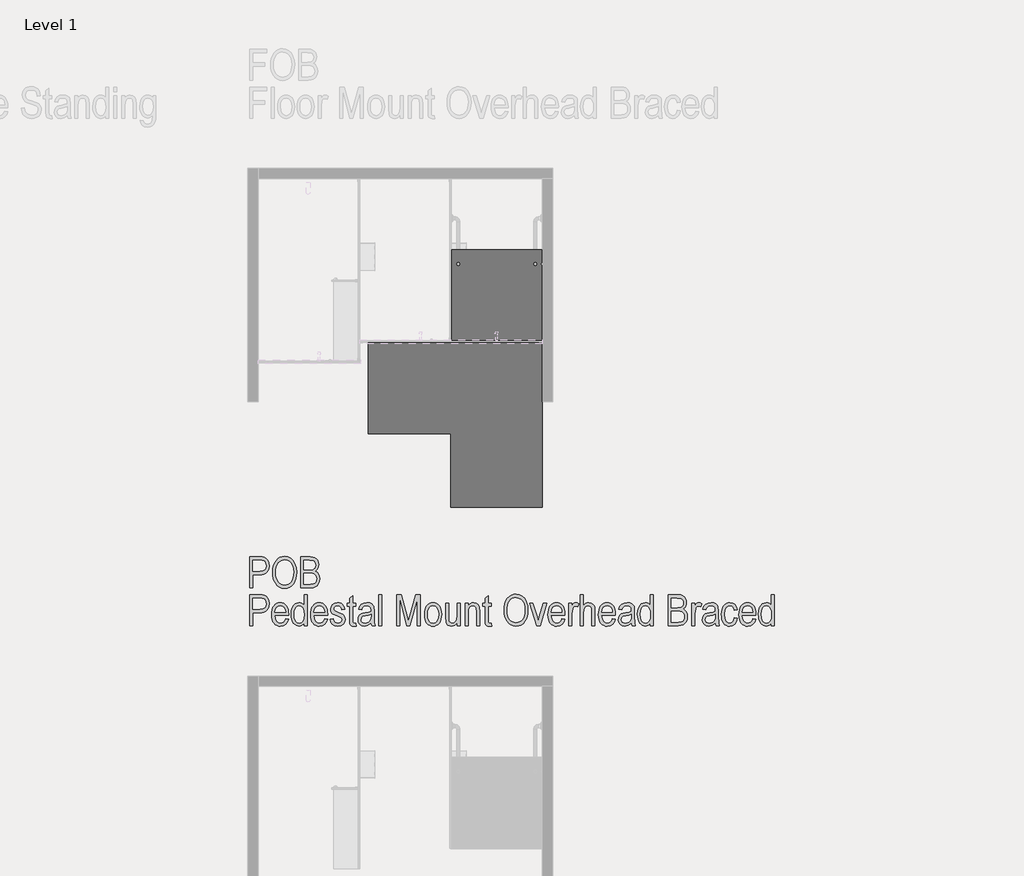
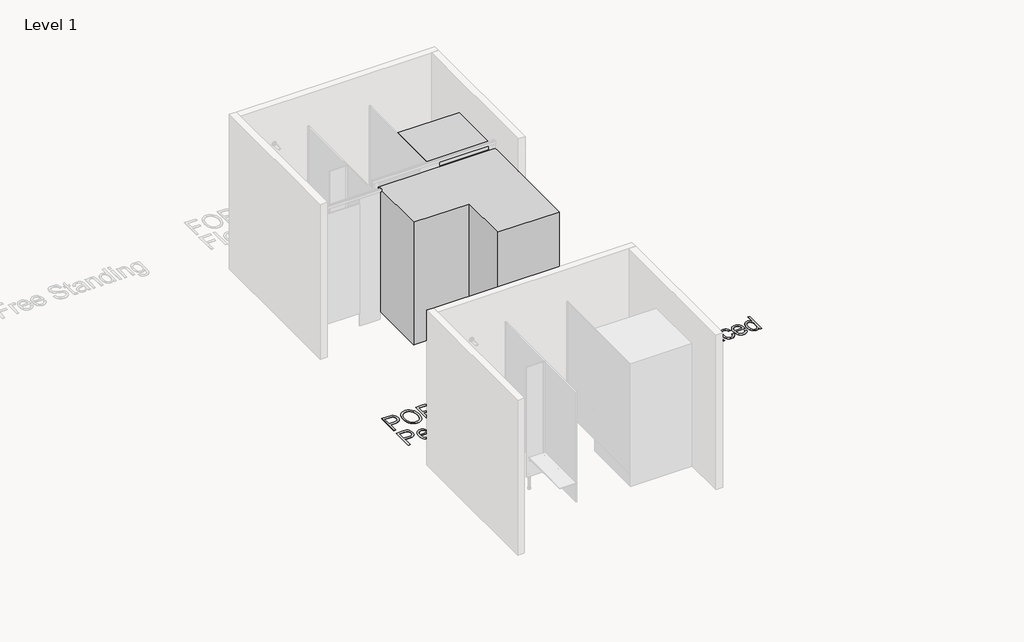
# One storey, part 20 of 21: 3 proxies.
"""IFC4 building model written with IfcOpenShell, lengths in millimetres."""

import ifcopenshell
import ifcopenshell.guid

model = None  # the IFC model being written
_history = None  # IfcOwnerHistory: only IFC2X3 demands one
_inside = {}  # id of a spatial element -> (the spatial element, [elements in it])
_under = {}  # id of a project, library or spatial element -> (it, [spatial elements below it])
_declared = {}  # id of a project -> (the project, [libraries it declares])
_typed = {}  # id of a type object -> (the type object, [elements of that type])
_made_of = {}  # id of a material, layer set ... -> (it, [elements and type objects made of it])


def new_model(schema):
    """Start an empty IFC model of exactly this schema.

    Asked for "IFC4X3", IfcOpenShell would pick the latest addendum, in which some entities
    have other attributes; the version numbers below select the first issue.
    IFC2X3 requires an IfcOwnerHistory on every rooted entity: one is made here for all.
    """
    global model, _history
    if schema == "IFC4X3":
        model = ifcopenshell.file(schema_version=(4, 3, 0, 0))
    else:
        model = ifcopenshell.file(schema=schema)
    _inside.clear()
    _under.clear()
    _declared.clear()
    _typed.clear()
    _made_of.clear()
    _history = None
    if model.schema == "IFC2X3":
        org = make("IfcOrganization", Name="unknown")
        user = make(
            "IfcPersonAndOrganization",
            ThePerson=make("IfcPerson", FamilyName="unknown"),
            TheOrganization=org,
        )
        app = make(
            "IfcApplication",
            ApplicationDeveloper=org,
            Version="unknown",
            ApplicationFullName="unknown",
            ApplicationIdentifier="unknown",
        )
        _history = make(
            "IfcOwnerHistory",
            OwningUser=user,
            OwningApplication=app,
            ChangeAction="ADDED",
            CreationDate=0,
        )
    return model


def make(cls, **values):
    """One entity of the class cls with the attributes given. An attribute that is None is left unset."""
    return model.create_entity(
        cls, **{name: value for name, value in values.items() if value is not None}
    )


def rooted(cls, **values):
    """An entity with a GlobalId (a new one), such as an element, a storey or a relation."""
    return make(cls, GlobalId=ifcopenshell.guid.new(), OwnerHistory=_history, **values)


def si_unit(unit_type, name, prefix=None):
    """IfcSIUnit, for example si_unit("LENGTHUNIT", "METRE", prefix="MILLI")."""
    return make("IfcSIUnit", UnitType=unit_type, Prefix=prefix, Name=name)


def assignment(units):
    """IfcUnitAssignment: the units of a project."""
    return None if units is None else make("IfcUnitAssignment", Units=units)


def point(xyz):
    """IfcCartesianPoint."""
    return None if xyz is None else make("IfcCartesianPoint", Coordinates=xyz)


def direction(xyz):
    """IfcDirection."""
    return None if xyz is None else make("IfcDirection", DirectionRatios=xyz)


def frame(location, z_axis=None, x_axis=None):
    """IfcAxis2Placement3D, a coordinate frame: its origin and axes. An axis left out is left unset."""
    return make(
        "IfcAxis2Placement3D",
        Location=point(location),
        Axis=direction(z_axis),
        RefDirection=direction(x_axis),
    )


def origin():
    """The frame at (0, 0, 0) with its axes left unset."""
    return frame((0.0, 0.0, 0.0))


def origin_with_axes():
    """The frame at (0, 0, 0) with the z axis (0, 0, 1) and the x axis (1, 0, 0) written out."""
    return frame((0.0, 0.0, 0.0), z_axis=(0.0, 0.0, 1.0), x_axis=(1.0, 0.0, 0.0))


def place(relative_to, where):
    """IfcLocalPlacement: puts the frame where relative to a parent placement (None: the world)."""
    return make(
        "IfcLocalPlacement", PlacementRelTo=relative_to, RelativePlacement=where
    )


def context(
    kind, dimensions, precision=None, world=None, true_north=None, identifier=None
):
    """IfcGeometricRepresentationContext, for example the 3D "Model" context."""
    return make(
        "IfcGeometricRepresentationContext",
        ContextIdentifier=identifier,
        ContextType=kind,
        CoordinateSpaceDimension=dimensions,
        Precision=precision,
        WorldCoordinateSystem=world,
        TrueNorth=true_north,
    )


def project(units=None, contexts=None):
    """IfcProject with its units and contexts."""
    return rooted(
        "IfcProject",
        Name="project",
        RepresentationContexts=contexts,
        UnitsInContext=assignment(units),
    )


def spatial(cls, under=None, at=None, **own):
    """A site, building, storey or space (cls), placed at a placement, below another one or the project."""
    s = rooted(cls, ObjectPlacement=at, **own)
    if under is not None:
        _under.setdefault(under.id(), (under, []))[1].append(s)
    return s


def polyline(points):
    """IfcPolyline through the points."""
    return make("IfcPolyline", Points=[point(p) for p in points])


def outline(outer, holes=None, kind="AREA"):
    """IfcArbitraryClosedProfileDef: a profile drawn as a closed curve; with holes, ...WithVoids."""
    if holes is None:
        return make("IfcArbitraryClosedProfileDef", ProfileType=kind, OuterCurve=outer)
    return make(
        "IfcArbitraryProfileDefWithVoids",
        ProfileType=kind,
        OuterCurve=outer,
        InnerCurves=holes,
    )


def extrude(swept, where, along, depth):
    """IfcExtrudedAreaSolid: the profile swept, set in the frame where, extruded along a direction by depth."""
    return make(
        "IfcExtrudedAreaSolid",
        SweptArea=swept,
        Position=where,
        ExtrudedDirection=direction(along),
        Depth=depth,
    )


def shape(context_of_items, identifier, shape_type, items):
    """IfcShapeRepresentation: the items that make up one representation, for example the "Body"."""
    return make(
        "IfcShapeRepresentation",
        ContextOfItems=context_of_items,
        RepresentationIdentifier=identifier,
        RepresentationType=shape_type,
        Items=items,
    )


def source(mapping_origin, context_of_items, identifier, shape_type, items):
    """IfcRepresentationMap: a shape defined once, which mapped items show again and again."""
    return make(
        "IfcRepresentationMap",
        MappingOrigin=mapping_origin,
        MappedRepresentation=shape(context_of_items, identifier, shape_type, items),
    )


def transform(
    local_origin,
    x_axis=None,
    y_axis=None,
    z_axis=None,
    scale=None,
    scale2=None,
    scale3=None,
    uniform=True,
):
    """IfcCartesianTransformationOperator3D, or its non-uniform kind. x_axis, y_axis, z_axis: its Axis1, 2, 3."""
    if uniform:
        return make(
            "IfcCartesianTransformationOperator3D",
            Axis1=direction(x_axis),
            Axis2=direction(y_axis),
            LocalOrigin=point(local_origin),
            Scale=scale,
            Axis3=direction(z_axis),
        )
    return make(
        "IfcCartesianTransformationOperator3DnonUniform",
        Axis1=direction(x_axis),
        Axis2=direction(y_axis),
        LocalOrigin=point(local_origin),
        Scale=scale,
        Axis3=direction(z_axis),
        Scale2=scale2,
        Scale3=scale3,
    )


def mapped(mapping_source, mapping_target):
    """IfcMappedItem: shows the shape of a source again, moved by a transform."""
    return make(
        "IfcMappedItem", MappingSource=mapping_source, MappingTarget=mapping_target
    )


def made_of(thing, what):
    """Note that an element or type object is made of a material, layer set ...; save() writes the relation."""
    if what is not None:
        _made_of.setdefault(what.id(), (what, []))[1].append(thing)
    return thing


def element(
    cls,
    number,
    at=None,
    inside=None,
    cuts=None,
    type_object=None,
    material=None,
    context=None,
    identifier="Body",
    shape_type=None,
    held_by="IfcProductDefinitionShape",
    body=None,
    shapes=None,
    **own,
):
    """One element of the class cls, such as IfcWall. Its Tag is "e" and its number.

    at: its placement. inside: the storey or other place that contains it. cuts: it is an
    opening in that element (IfcRelVoidsElement). A single representation is given by context,
    identifier, shape_type and body (its items); several are given by shapes. held_by: the class
    of the entity that holds the representations. save() writes the other relations.
    """
    e = rooted(cls, Tag="e%d" % number, ObjectPlacement=at, **own)
    if body is not None:
        shapes = [shape(context, identifier, shape_type, body)]
    if shapes is not None:
        e.Representation = make(held_by, Representations=shapes)
    if inside is not None:
        _inside.setdefault(inside.id(), (inside, []))[1].append(e)
    if cuts is not None:
        rooted(
            "IfcRelVoidsElement", RelatingBuildingElement=cuts, RelatedOpeningElement=e
        )
    if type_object is not None:
        _typed.setdefault(type_object.id(), (type_object, []))[1].append(e)
    return made_of(e, material)


def aggregate(whole, parts):
    """IfcRelAggregates: a whole, such as a stair, and the parts it consists of."""
    return rooted("IfcRelAggregates", RelatingObject=whole, RelatedObjects=parts)


def save(model, path):
    """Write the relations noted so far, then the file.

    IfcRelAggregates (storeys below a building ...), IfcRelContainedInSpatialStructure (elements
    in a storey), IfcRelDefinesByType, IfcRelAssociatesMaterial and IfcRelDeclares: one each for
    every whole, place, type object, material and project.
    """
    for whole, parts in _under.values():
        aggregate(whole, parts)
    for where, things in _inside.values():
        rooted(
            "IfcRelContainedInSpatialStructure",
            RelatedElements=things,
            RelatingStructure=where,
        )
    for kind, things in _typed.values():
        rooted("IfcRelDefinesByType", RelatedObjects=things, RelatingType=kind)
    for what, things in _made_of.values():
        rooted("IfcRelAssociatesMaterial", RelatedObjects=things, RelatingMaterial=what)
    for by, libraries in _declared.values():
        rooted("IfcRelDeclares", RelatingContext=by, RelatedDefinitions=libraries)
    model.write(path)


def standard_f88c7766(model_context):
    return source(origin(), model_context, "Body", "SweptSolid", [
        extrude(outline(polyline([(450.0, 812.5), (450.0, -812.5), (-450.0, -812.5), (-450.0, -87.5), (-1262.5, -87.5), (-1262.5, 812.5), (450.0, 812.5)])), origin_with_axes(), (0.0, 0.0, 1.0), 1900.0),
    ])


def standard_ef1a4fdd(model_context):
    return source(origin(), model_context, "Body", "SweptSolid", [
        extrude(outline(polyline([(450.0, -450.0), (-450.0, -450.0), (-450.0, 450.0), (450.0, 450.0), (450.0, -450.0)])), origin_with_axes(), (0.0, 0.0, 1.0), 1900.0),
    ])


model = new_model("IFC4")

# Units and contexts
model_context = context("Model", 3, world=origin())
ifc_project = project(units=[si_unit("LENGTHUNIT", "METRE", prefix="MILLI")], contexts=[model_context])

# Site, building, storey
site = spatial("IfcSite", under=ifc_project)
building = spatial("IfcBuilding", under=site)
storey = spatial("IfcBuildingStorey", under=building, Name="Level 1", Elevation=0.0)

# Proxies
placement = place(None, origin())
element("IfcBuildingElementProxy", 1, Name="Arial Narrow-300mm", ObjectType="Arial Narrow-300mm", at=placement, inside=storey, context=model_context, shape_type="SweptSolid", body=[
    extrude(outline(polyline([(-1218.8829157, 6023.6753804), (-1218.8829157, 6328.8527498), (-1124.0533551, 6328.8527498), (-1094.9430642, 6327.4299218), (-1074.6773795, 6323.161438), (-1055.1038814, 6312.0960665), (-1039.9142316, 6294.4356951), (-1030.1659373, 6271.0647846), (-1026.9165059, 6242.8677954), (-1032.3290204, 6206.278044), (-1039.0946635, 6190.7663352), (-1048.5665638, 6177.1100709), (-1061.3599982, 6165.9725967), (-1078.0902439, 6158.0172579), (-1098.7573006, 6153.2440547), (-1123.3611685, 6151.6529869), (-1189.3496219, 6151.6529869), (-1189.3496219, 6023.6753804), (-1218.8829157, 6023.6753804)]), holes=[polyline([(-1189.3496219, 6186.1084964), (-1119.7464164, 6186.1084964), (-1091.3090847, 6189.5405881), (-1071.6779044, 6199.8368634), (-1060.2568259, 6217.0550044), (-1056.4497997, 6241.2526934), (-1058.3244717, 6257.9516945), (-1063.9484876, 6272.0549959), (-1072.2258854, 6282.8511837), (-1082.060703, 6289.6288439), (-1096.9619417, 6293.2051412), (-1120.438603, 6294.3972403), (-1189.3496219, 6294.3972403), (-1189.3496219, 6186.1084964)])]), origin_with_axes(), (0.0, 0.0, 1.0), 5.0),
    extrude(outline(polyline([(-992.4609965, 6172.1878553), (-990.3411751, 6208.8881642), (-983.981711, 6241.0796468), (-973.382604, 6268.7623029), (-958.5438544, 6291.9361325), (-940.5470035, 6310.2406219), (-920.4735928, 6323.3152572), (-898.3236225, 6331.1600384), (-874.0970924, 6333.7749654), (-842.9102418, 6329.102706), (-814.569047, 6315.0859279), (-790.4482677, 6292.1668614), (-771.9226631, 6260.7877367), (-760.1266503, 6221.7753323), (-756.194646, 6175.9564266), (-758.0933522, 6143.6832276), (-763.7894709, 6114.5440956), (-773.283002, 6088.5390306), (-786.5739456, 6065.6680325), (-804.6332856, 6045.1427779), (-825.2787115, 6030.4818817), (-848.5102234, 6021.685344), (-874.3278212, 6018.7531648), (-900.3280794, 6021.7622536), (-923.6461146, 6030.7895202), (-944.2819268, 6045.8349645), (-962.2355161, 6066.8985865), (-975.4591638, 6089.8320736), (-984.9046264, 6115.0247807), (-990.571904, 6142.476708), (-992.4609965, 6172.1878553)]), holes=[polyline([(-962.9277027, 6171.7263976), (-961.3174075, 6145.1204761), (-956.4865221, 6121.6774628), (-948.4350463, 6101.3973576), (-937.1629802, 6084.2801604), (-923.5884324, 6070.6863852), (-908.6295114, 6060.9765458), (-892.2862173, 6055.1506421), (-874.5585501, 6053.2086742), (-856.4415279, 6055.1698695), (-839.8530844, 6061.0534554), (-824.7932196, 6070.8594318), (-811.2619334, 6084.5877989), (-800.0908112, 6102.1231921), (-792.1114382, 6123.350247), (-787.3238144, 6148.2689637), (-785.7279398, 6176.879342), (-789.015826, 6214.1035978), (-798.8794847, 6247.1747341), (-811.5791856, 6268.497926), (-829.3741488, 6285.0911764), (-850.6684996, 6295.7623861), (-873.8663635, 6299.319456), (-892.4280195, 6297.3702778), (-909.2736295, 6291.5227433), (-924.4031937, 6281.7768525), (-937.816712, 6268.1326053), (-948.8027704, 6250.4121484), (-956.649955, 6228.4376281), (-961.3582658, 6202.2090445), (-962.9277027, 6171.7263976)])]), origin_with_axes(), (0.0, 0.0, 1.0), 5.0),
    extrude(outline(polyline([(-716.8169209, 6023.6753804), (-716.8169209, 6328.8527498), (-622.8333661, 6328.8527498), (-597.2032355, 6326.680053), (-577.5336004, 6320.1619628), (-562.363178, 6309.0389091), (-550.2306855, 6293.051322), (-542.2705399, 6273.6797116), (-539.6171581, 6252.4045882), (-541.7129452, 6232.7445668), (-548.0003066, 6215.1418776), (-558.0946941, 6200.2117978), (-571.6115597, 6188.5696042), (-554.220372, 6177.7349616), (-540.9630764, 6161.2282345), (-532.5703142, 6139.6262452), (-529.7727268, 6113.5058157), (-532.5799279, 6087.13543), (-541.0015312, 6064.168295), (-554.1050076, 6045.8157371), (-570.9578279, 6033.2890828), (-593.1943216, 6026.078806), (-622.448818, 6023.6753804), (-716.8169209, 6023.6753804)]), holes=[polyline([(-687.2836271, 6200.8751433), (-629.7552319, 6200.8751433), (-597.6839206, 6203.7977088), (-585.5610419, 6209.7582043), (-576.5722301, 6218.7181749), (-571.0058964, 6231.0429414), (-569.1504519, 6247.0978245), (-570.8328498, 6262.3836113), (-575.8800436, 6274.862197), (-583.7248247, 6284.2259432), (-593.7999849, 6290.1672113), (-633.9852609, 6294.3972403), (-687.2836271, 6294.3972403), (-687.2836271, 6200.8751433)]), polyline([(-687.2836271, 6058.1308899), (-621.7566315, 6058.1308899), (-589.7622298, 6061.9763708), (-576.6299123, 6069.3789217), (-567.0738921, 6080.3577698), (-561.2479885, 6094.7783234), (-559.3060206, 6112.5059907), (-561.1710789, 6128.9742629), (-566.7662537, 6142.6930163), (-575.5051092, 6153.3738397), (-586.8012095, 6160.728322), (-602.9810707, 6164.9968059), (-626.3712086, 6166.4196338), (-687.2836271, 6166.4196338), (-687.2836271, 6058.1308899)])]), origin_with_axes(), (0.0, 0.0, 1.0), 5.0),
    extrude(outline(polyline([(-1218.8829157, 5650.573168), (-1218.8829157, 5955.7505374), (-1124.0533551, 5955.7505374), (-1094.9430642, 5954.3277094), (-1074.6773795, 5950.0592255), (-1055.1038814, 5938.9938541), (-1039.9142316, 5921.3334827), (-1030.1659373, 5897.9625722), (-1026.9165059, 5869.765583), (-1032.3290204, 5833.1758316), (-1039.0946635, 5817.6641228), (-1048.5665638, 5804.0078585), (-1061.3599982, 5792.8703843), (-1078.0902439, 5784.9150455), (-1098.7573006, 5780.1418423), (-1123.3611685, 5778.5507745), (-1189.3496219, 5778.5507745), (-1189.3496219, 5650.573168), (-1218.8829157, 5650.573168)]), holes=[polyline([(-1189.3496219, 5813.006284), (-1119.7464164, 5813.006284), (-1091.3090847, 5816.4383757), (-1071.6779044, 5826.734651), (-1060.2568259, 5843.952792), (-1056.4497997, 5868.150481), (-1058.3244717, 5884.8494821), (-1063.9484876, 5898.9527835), (-1072.2258854, 5909.7489713), (-1082.060703, 5916.5266315), (-1096.9619417, 5920.1029288), (-1120.438603, 5921.2950279), (-1189.3496219, 5921.2950279), (-1189.3496219, 5813.006284)])]), origin_with_axes(), (0.0, 0.0, 1.0), 5.0),
    extrude(outline(polyline([(-864.48339, 5719.4841869), (-834.9500962, 5714.5619713), (-846.1596732, 5684.6056745), (-863.7912034, 5663.0325263), (-887.1332729, 5649.9963459), (-915.4744676, 5645.6509524), (-933.9664242, 5647.4799593), (-950.6029362, 5652.9669799), (-965.3840036, 5662.1120143), (-978.3096265, 5674.9150625), (-988.8077896, 5691.1742367), (-996.3064774, 5710.6876492), (-1000.8056902, 5733.4552999), (-1002.3054277, 5759.4771889), (-1000.7984799, 5786.4268002), (-996.2776363, 5809.9779677), (-988.7428971, 5830.1306914), (-978.1942621, 5846.8849713), (-965.3383385, 5860.058147), (-950.8817335, 5869.4675582), (-934.8244471, 5875.113205), (-917.1664792, 5876.9950872), (-900.2487664, 5875.1780975), (-884.7971432, 5869.7271282), (-870.8116096, 5860.6421794), (-858.2921656, 5847.9232511), (-847.9790664, 5831.7626174), (-840.6125669, 5812.3525522), (-836.1926672, 5789.6930556), (-834.7193673, 5763.7841276), (-834.9500962, 5753.9396963), (-972.7721339, 5753.9396963), (-967.2250276, 5719.6764609), (-954.583009, 5695.026928), (-936.6149992, 5680.1449166), (-915.0899195, 5675.1842462), (-898.2851676, 5677.9529925), (-884.2491621, 5686.2592314), (-872.9819029, 5700.1029628), (-864.48339, 5719.4841869)]), holes=[polyline([(-970.7724838, 5783.4729902), (-864.48339, 5783.4729902), (-868.7903286, 5808.7378001), (-877.404206, 5826.6961962), (-895.0549636, 5842.2703941), (-916.9357503, 5847.4617934), (-937.0283884, 5843.1356273), (-953.9292772, 5830.1571291), (-965.792586, 5809.8337622), (-970.7724838, 5783.4729902)])]), origin_with_axes(), (0.0, 0.0, 1.0), 5.0),
    extrude(outline(polyline([(-682.3614115, 5650.573168), (-682.3614115, 5677.3377155), (-691.8501358, 5663.7150992), (-703.7038308, 5653.7649172), (-717.2687649, 5647.6794436), (-731.8912063, 5645.6509524), (-747.277937, 5647.5472552), (-761.5975468, 5653.2361636), (-774.8500355, 5662.7176776), (-787.0354033, 5675.9917972), (-797.2307347, 5692.7028154), (-804.5131143, 5712.4950252), (-808.8825421, 5735.3684267), (-810.339018, 5761.3230198), (-807.7048635, 5796.1534636), (-799.8024001, 5825.2733682), (-787.5064748, 5848.15398), (-771.6919343, 5864.2665452), (-753.1471023, 5873.8129517), (-732.6603025, 5876.9950872), (-717.8359734, 5875.0723467), (-704.1268337, 5869.3041253), (-692.1097057, 5860.0941984), (-682.3614115, 5847.8463415), (-682.3614115, 5955.7505374), (-652.8281177, 5955.7505374), (-652.8281177, 5650.573168), (-682.3614115, 5650.573168)]), holes=[polyline([(-780.8057242, 5761.0922909), (-777.0659939, 5723.098939), (-765.8468032, 5696.3343915), (-749.6477147, 5680.4717825), (-730.9682909, 5675.1842462), (-712.5868919, 5680.2602811), (-696.8204199, 5695.4883857), (-685.9761636, 5720.9839245), (-682.3614115, 5756.8622619), (-685.9761636, 5797.7012697), (-696.8204199, 5825.7732808), (-713.163714, 5842.0396652), (-733.2755794, 5847.4617934), (-751.3781811, 5842.2511667), (-766.7697187, 5826.6192866), (-777.2967228, 5799.8162843), (-780.8057242, 5761.0922909)])]), origin_with_axes(), (0.0, 0.0, 1.0), 5.0),
    extrude(outline(polyline([(-480.5505704, 5719.4841869), (-451.0172766, 5714.5619713), (-462.2268536, 5684.6056745), (-479.8583839, 5663.0325263), (-503.2004533, 5649.9963459), (-531.541648, 5645.6509524), (-550.0336046, 5647.4799593), (-566.6701166, 5652.9669799), (-581.4511841, 5662.1120143), (-594.376807, 5674.9150625), (-604.87497, 5691.1742367), (-612.3736579, 5710.6876492), (-616.8728706, 5733.4552999), (-618.3726082, 5759.4771889), (-616.8656604, 5786.4268002), (-612.3448168, 5809.9779677), (-604.8100775, 5830.1306914), (-594.2614426, 5846.8849713), (-581.405519, 5860.058147), (-566.948914, 5869.4675582), (-550.8916276, 5875.113205), (-533.2336597, 5876.9950872), (-516.3159468, 5875.1780975), (-500.8643236, 5869.7271282), (-486.87879, 5860.6421794), (-474.3593461, 5847.9232511), (-464.0462468, 5831.7626174), (-456.6797473, 5812.3525522), (-452.2598477, 5789.6930556), (-450.7865478, 5763.7841276), (-451.0172766, 5753.9396963), (-588.8393144, 5753.9396963), (-583.2922081, 5719.6764609), (-570.6501894, 5695.026928), (-552.6821796, 5680.1449166), (-531.1570999, 5675.1842462), (-514.3523481, 5677.9529925), (-500.3163426, 5686.2592314), (-489.0490834, 5700.1029628), (-480.5505704, 5719.4841869)]), holes=[polyline([(-586.8396643, 5783.4729902), (-480.5505704, 5783.4729902), (-484.8575091, 5808.7378001), (-493.4713865, 5826.6961962), (-511.1221441, 5842.2703941), (-533.0029308, 5847.4617934), (-553.0955688, 5843.1356273), (-569.9964577, 5830.1571291), (-581.8597665, 5809.8337622), (-586.8396643, 5783.4729902)])]), origin_with_axes(), (0.0, 0.0, 1.0), 5.0),
    extrude(outline(polyline([(-426.4061985, 5714.5619713), (-396.8729046, 5719.4841869), (-391.8353246, 5699.9106888), (-382.1062577, 5686.1054121), (-368.0702522, 5677.9145377), (-350.1118561, 5675.1842462), (-332.3841889, 5677.6068992), (-319.1941892, 5684.8748582), (-311.0033147, 5695.8537064), (-308.2730232, 5709.4090268), (-310.44572, 5720.8108778), (-316.9638102, 5729.3286182), (-347.5738387, 5742.0187054), (-395.4885315, 5761.3230198), (-406.4769934, 5770.4848782), (-414.6774815, 5782.2808911), (-419.7823575, 5796.3072829), (-421.4839828, 5812.1602781), (-416.9751564, 5838.2903213), (-403.4486771, 5858.9982363), (-381.9428248, 5872.4958745), (-353.4958794, 5876.9950872), (-334.6337952, 5875.1204152), (-318.1943641, 5869.4963993), (-304.7447944, 5860.6998616), (-294.8522946, 5849.3076243), (-287.9977248, 5833.8872456), (-283.661945, 5813.006284), (-313.1952388, 5808.0840683), (-317.2089596, 5825.311823), (-325.0970024, 5837.6173621), (-336.8593673, 5845.0006856), (-352.4960543, 5847.4617934), (-369.8776283, 5845.3660063), (-382.1831674, 5839.0786449), (-389.5088086, 5829.5226247), (-391.950689, 5817.6208611), (-389.5857182, 5806.1421004), (-382.4908058, 5797.3936312), (-348.727483, 5783.4729902), (-300.4666969, 5764.2071305), (-291.3336796, 5755.8047546), (-284.469496, 5744.8259065), (-280.1721711, 5731.4147916), (-278.7397294, 5715.7156156), (-283.6715587, 5687.3936482), (-298.4670468, 5665.0321764), (-321.7802751, 5650.4962584), (-352.2653254, 5645.6509524), (-380.8660901, 5649.9578911), (-402.7564905, 5662.8787071), (-417.9365266, 5684.4134005), (-426.4061985, 5714.5619713)])), origin_with_axes(), (0.0, 0.0, 1.0), 5.0),
    extrude(outline(polyline([(-175.3732011, 5675.1842462), (-170.4509854, 5645.6509524), (-192.754775, 5645.6509524), (-206.7907805, 5647.2564407), (-217.8273109, 5652.0729056), (-225.8643661, 5659.6773442), (-230.9019462, 5669.6467536), (-234.4397887, 5714.0236039), (-234.4397887, 5842.5395778), (-259.0508669, 5842.5395778), (-259.0508669, 5872.0728716), (-234.4397887, 5872.0728716), (-234.4397887, 5921.2950279), (-204.9064949, 5945.9061061), (-204.9064949, 5872.0728716), (-175.3732011, 5872.0728716), (-175.3732011, 5842.5395778), (-204.9064949, 5842.5395778), (-204.9064949, 5707.2555574), (-202.2915678, 5683.0290273), (-196.9463493, 5677.1454415), (-188.2940171, 5675.1842462), (-175.3732011, 5675.1842462)])), origin_with_axes(), (0.0, 0.0, 1.0), 5.0),
    extrude(outline(polyline([(-22.7845164, 5678.1068117), (-38.4067828, 5663.9554418), (-54.6635536, 5653.803372), (-71.5548287, 5647.6890573), (-89.0806082, 5645.6509524), (-114.383873, 5649.9386636), (-133.9958259, 5662.8017975), (-146.5705486, 5682.9136629), (-150.7621229, 5708.9475691), (-148.7528591, 5727.0790118), (-142.7250677, 5743.0185304), (-133.217116, 5756.2373712), (-120.7673714, 5766.2067806), (-103.2512056, 5773.4651259), (-78.5439904, 5778.5507745), (-45.6074459, 5785.3572758), (-22.7845164, 5793.3174214), (-22.7845164, 5802.7773046), (-24.8803035, 5821.889345), (-31.1676649, 5834.3102485), (-46.088131, 5844.1739072), (-67.315186, 5847.4617934), (-86.5425908, 5845.3948474), (-100.232503, 5839.1940093), (-109.7116136, 5827.282632), (-116.3066134, 5808.0840683), (-145.8399073, 5813.006284), (-136.0531582, 5841.9146871), (-119.6137271, 5861.7285278), (-95.5986984, 5873.1784474), (-63.0851569, 5876.9950872), (-37.4934811, 5874.3128642), (-18.0930296, 5866.2661953), (-4.7972792, 5854.258681), (2.4802936, 5839.6939219), (6.7487774, 5793.394331), (6.7487774, 5743.3261689), (8.7484275, 5677.1454415), (16.5932087, 5650.573168), (-12.9400851, 5650.573168), (-19.1697643, 5663.2248004), (-22.7845164, 5678.1068117)]), holes=[polyline([(-22.7845164, 5763.7841276), (-44.8768045, 5755.7470724), (-75.6214248, 5749.0174807), (-104.1164388, 5741.288064), (-116.7296164, 5728.9825249), (-121.2288291, 5710.6395807), (-118.6523568, 5696.1132763), (-110.9229401, 5684.8364034), (-98.6366284, 5677.5972855), (-82.3894713, 5675.1842462), (-65.8731306, 5677.3665566), (-50.933437, 5683.913488), (-38.5702157, 5694.1040125), (-29.7832917, 5707.2171026), (-24.5342102, 5725.1274302), (-22.7845164, 5749.7096673), (-22.7845164, 5763.7841276)])]), origin_with_axes(), (0.0, 0.0, 1.0), 5.0),
    extrude(outline(polyline([(51.0487181, 5650.573168), (51.0487181, 5955.7505374), (80.582012, 5955.7505374), (80.582012, 5650.573168), (51.0487181, 5650.573168)])), origin_with_axes(), (0.0, 0.0, 1.0), 5.0),
    extrude(outline(polyline([(228.248481, 5650.573168), (228.248481, 5955.7505374), (275.0864392, 5955.7505374), (332.4610152, 5739.6345072), (343.9205484, 5694.4885606), (357.3028222, 5743.4030785), (417.3692349, 5955.7505374), (459.5926159, 5955.7505374), (459.5926159, 5650.573168), (430.059322, 5650.573168), (430.059322, 5910.8353197), (356.8413645, 5650.573168), (330.2306362, 5650.573168), (257.7817748, 5925.4481474), (257.7817748, 5650.573168), (228.248481, 5650.573168)])), origin_with_axes(), (0.0, 0.0, 1.0), 5.0),
    extrude(outline(polyline([(503.8925566, 5761.3230198), (505.3730667, 5788.2149489), (509.8145973, 5811.5930697), (517.2171481, 5831.4573823), (527.5807193, 5847.8078867), (540.2131243, 5860.5772869), (554.4221764, 5869.6982871), (570.2078758, 5875.1708872), (587.5702224, 5876.9950872), (604.6826127, 5875.1708872), (620.3337202, 5869.6982871), (634.5235449, 5860.5772869), (647.2520869, 5847.8078867), (657.75025, 5831.6015879), (665.2489379, 5812.1698919), (669.7481506, 5789.5127987), (671.2478882, 5763.6303084), (669.7745883, 5735.7289405), (665.3546886, 5711.629792), (657.9881891, 5691.3328628), (647.6750898, 5674.8381529), (635.0787363, 5662.0687527), (620.8624738, 5652.9477525), (605.0263025, 5647.4751524), (587.5702224, 5645.6509524), (570.3640985, 5647.4799593), (554.662519, 5652.9669799), (540.465484, 5662.1120143), (527.7729934, 5674.9150625), (517.3253023, 5691.2896011), (509.8626658, 5711.1491069), (505.3850839, 5734.4935798), (503.8925566, 5761.3230198)]), holes=[polyline([(533.4258504, 5761.3999294), (537.3770821, 5723.3681227), (549.2307771, 5696.4882107), (566.9296033, 5680.5102373), (588.4162282, 5675.1842462), (608.7780499, 5680.5583058), (626.025032, 5696.6804848), (637.7922038, 5723.6084652), (641.7145943, 5761.3999294), (637.7633627, 5799.3163717), (625.9096676, 5826.1578289), (608.2108414, 5842.1358023), (586.7242166, 5847.4617934), (566.2181893, 5842.1069612), (549.0000483, 5826.0424644), (537.3193999, 5799.1721662), (533.4258504, 5761.3999294)])]), origin_with_axes(), (0.0, 0.0, 1.0), 5.0),
    extrude(outline(polyline([(823.8365728, 5650.573168), (823.8365728, 5680.4910099), (812.8769521, 5665.272519), (800.1484101, 5654.3801942), (785.6509469, 5647.8332628), (769.3845624, 5645.6509524), (750.5609331, 5648.5446768), (734.6983241, 5657.2258501), (722.7004235, 5670.3389402), (715.4709193, 5686.528415), (710.6256132, 5734.8661108), (710.6256132, 5872.0728716), (740.158907, 5872.0728716), (740.158907, 5747.4792883), (743.5044755, 5701.0643331), (748.2824856, 5690.4988741), (755.925379, 5682.2599312), (765.6352184, 5676.9531674), (776.6140666, 5675.1842462), (796.2260195, 5679.7795959), (811.9924915, 5693.5656452), (820.8755525, 5716.023254), (823.8365728, 5751.7093174), (823.8365728, 5872.0728716), (853.3698667, 5872.0728716), (853.3698667, 5650.573168), (823.8365728, 5650.573168)])), origin_with_axes(), (0.0, 0.0, 1.0), 5.0),
    extrude(outline(polyline([(902.592023, 5650.573168), (902.592023, 5872.0728716), (932.1253168, 5872.0728716), (932.1253168, 5843.4624932), (942.6427073, 5858.1810716), (955.2751122, 5868.6503935), (969.9648495, 5874.9089138), (986.6542369, 5876.9950872), (1012.1497757, 5871.2653206), (1031.069542, 5856.2679448), (1041.7984339, 5832.195234), (1045.3362764, 5786.7031942), (1045.3362764, 5650.573168), (1015.8029826, 5650.573168), (1015.8029826, 5787.3184711), (1011.7652276, 5823.5429018), (1006.583442, 5833.6949716), (999.1135952, 5841.2321142), (989.8075313, 5845.9043736), (979.1170942, 5847.4617934), (959.8320072, 5843.2798329), (944.8923136, 5830.7339512), (935.317066, 5808.0359998), (932.1253168, 5773.39783), (932.1253168, 5650.573168), (902.592023, 5650.573168)])), origin_with_axes(), (0.0, 0.0, 1.0), 5.0),
    extrude(outline(polyline([(1158.547236, 5675.1842462), (1163.4694517, 5645.6509524), (1141.1656621, 5645.6509524), (1127.1296565, 5647.2564407), (1116.0931262, 5652.0729056), (1108.056071, 5659.6773442), (1103.0184909, 5669.6467536), (1099.4806484, 5714.0236039), (1099.4806484, 5842.5395778), (1074.8695702, 5842.5395778), (1074.8695702, 5872.0728716), (1099.4806484, 5872.0728716), (1099.4806484, 5921.2950279), (1129.0139422, 5945.9061061), (1129.0139422, 5872.0728716), (1158.547236, 5872.0728716), (1158.547236, 5842.5395778), (1129.0139422, 5842.5395778), (1129.0139422, 5707.2555574), (1131.6288693, 5683.0290273), (1136.9740878, 5677.1454415), (1145.62642, 5675.1842462), (1158.547236, 5675.1842462)])), origin_with_axes(), (0.0, 0.0, 1.0), 5.0),
    extrude(outline(polyline([(1286.5248425, 5799.0856429), (1288.6446639, 5835.7859518), (1295.0041281, 5867.9774344), (1305.603235, 5895.6600905), (1320.4419846, 5918.8339201), (1338.4388356, 5937.1384095), (1358.5122462, 5950.2130448), (1380.6622166, 5958.057826), (1404.8887466, 5960.672753), (1436.0755973, 5956.0004936), (1464.416792, 5941.9837155), (1488.5375713, 5919.064649), (1507.0631759, 5887.6855243), (1518.8591887, 5848.6731199), (1522.791193, 5802.8542142), (1520.8924868, 5770.5810152), (1515.1963681, 5741.4418832), (1505.702837, 5715.4368182), (1492.4118934, 5692.5658201), (1474.3525534, 5672.0405655), (1453.7071275, 5657.3796693), (1430.4756156, 5648.5831316), (1404.6580178, 5645.6509524), (1378.6577596, 5648.6600412), (1355.3397244, 5657.6873078), (1334.7039122, 5672.7327521), (1316.7503229, 5693.7963741), (1303.5266753, 5716.7298612), (1294.0812126, 5741.9225683), (1288.4139351, 5769.3744956), (1286.5248425, 5799.0856429)]), holes=[polyline([(1316.0581363, 5798.6241852), (1317.6684315, 5772.0182637), (1322.499317, 5748.5752504), (1330.5507927, 5728.2951452), (1341.8228588, 5711.177948), (1355.3974066, 5697.5841728), (1370.3563276, 5687.8743334), (1386.6996217, 5682.0484297), (1404.4272889, 5680.1064618), (1422.5443111, 5682.0676571), (1439.1327546, 5687.951243), (1454.1926195, 5697.7572194), (1467.7239056, 5711.4855865), (1478.8950278, 5729.0209797), (1486.8744008, 5750.2480346), (1491.6620246, 5775.1667513), (1493.2578992, 5803.7771296), (1489.970013, 5841.0013854), (1480.1063543, 5874.0725217), (1467.4066534, 5895.3957136), (1449.6116903, 5911.988964), (1428.3173394, 5922.6601737), (1405.1194755, 5926.2172436), (1386.5578196, 5924.2680654), (1369.7122095, 5918.4205309), (1354.5826453, 5908.6746401), (1341.169127, 5895.0303929), (1330.1830686, 5877.309936), (1322.335884, 5855.3354157), (1317.6275733, 5829.1068321), (1316.0581363, 5798.6241852)])]), origin_with_axes(), (0.0, 0.0, 1.0), 5.0),
    extrude(outline(polyline([(1611.2372552, 5650.573168), (1541.5571401, 5872.0728716), (1572.0133494, 5872.0728716), (1611.7756225, 5739.4806879), (1623.6966135, 5694.8731087), (1634.925418, 5737.0195801), (1675.3798777, 5872.0728716), (1705.8360869, 5872.0728716), (1641.3089164, 5650.573168), (1611.2372552, 5650.573168)])), origin_with_axes(), (0.0, 0.0, 1.0), 5.0),
    extrude(outline(polyline([(1857.5018562, 5719.4841869), (1887.03515, 5714.5619713), (1875.825573, 5684.6056745), (1858.1940428, 5663.0325263), (1834.8519733, 5649.9963459), (1806.5107786, 5645.6509524), (1788.018822, 5647.4799593), (1771.38231, 5652.9669799), (1756.6012425, 5662.1120143), (1743.6756196, 5674.9150625), (1733.1774566, 5691.1742367), (1725.6787687, 5710.6876492), (1721.179556, 5733.4552999), (1719.6798184, 5759.4771889), (1721.1867663, 5786.4268002), (1725.7076098, 5809.9779677), (1733.2423491, 5830.1306914), (1743.7909841, 5846.8849713), (1756.6469076, 5860.058147), (1771.1035126, 5869.4675582), (1787.1607991, 5875.113205), (1804.818767, 5876.9950872), (1821.7364798, 5875.1780975), (1837.188103, 5869.7271282), (1851.1736366, 5860.6421794), (1863.6930806, 5847.9232511), (1874.0061798, 5831.7626174), (1881.3726793, 5812.3525522), (1885.792579, 5789.6930556), (1887.2658789, 5763.7841276), (1887.03515, 5753.9396963), (1749.2131122, 5753.9396963), (1754.7602185, 5719.6764609), (1767.4022372, 5695.026928), (1785.370247, 5680.1449166), (1806.8953267, 5675.1842462), (1823.7000785, 5677.9529925), (1837.736084, 5686.2592314), (1849.0033433, 5700.1029628), (1857.5018562, 5719.4841869)]), holes=[polyline([(1751.2127623, 5783.4729902), (1857.5018562, 5783.4729902), (1853.1949175, 5808.7378001), (1844.5810402, 5826.6961962), (1826.9302825, 5842.2703941), (1805.0494958, 5847.4617934), (1784.9568578, 5843.1356273), (1768.055969, 5830.1571291), (1756.1926602, 5809.8337622), (1751.2127623, 5783.4729902)])]), origin_with_axes(), (0.0, 0.0, 1.0), 5.0),
    extrude(outline(polyline([(1926.4128751, 5650.573168), (1926.4128751, 5872.0728716), (1955.9461689, 5872.0728716), (1955.9461689, 5842.693397), (1965.829055, 5859.9596065), (1974.8659352, 5870.2270407), (1984.0181799, 5875.3030756), (1994.2471593, 5876.9950872), (2009.3983543, 5874.5339794), (2024.8571878, 5867.1506559), (2015.0127565, 5837.6173621), (1992.09369, 5842.5395778), (1982.4511464, 5840.7802702), (1973.6738361, 5835.5023476), (1966.5693101, 5827.0711306), (1961.9451192, 5815.8519399), (1955.9461689, 5769.167801), (1955.9461689, 5650.573168), (1926.4128751, 5650.573168)])), origin_with_axes(), (0.0, 0.0, 1.0), 5.0),
    extrude(outline(polyline([(2039.6238347, 5650.573168), (2039.6238347, 5955.7505374), (2069.1571285, 5955.7505374), (2069.1571285, 5849.3845339), (2080.2994096, 5861.4881852), (2092.8068364, 5870.1116763), (2106.679409, 5875.2742345), (2121.9171273, 5876.9950872), (2146.9704358, 5872.3805101), (2166.1401584, 5858.5367786), (2173.2398777, 5847.3848838), (2178.3111057, 5832.387508), (2182.3680881, 5790.8563136), (2182.3680881, 5650.573168), (2152.8347943, 5650.573168), (2152.8347943, 5792.9328733), (2150.3640728, 5817.9669544), (2142.9519082, 5834.7717062), (2131.2135776, 5844.2892716), (2115.7643578, 5847.4617934), (2097.8251891, 5843.3951973), (2082.7701311, 5831.1954089), (2072.5603792, 5808.6320494), (2069.1571285, 5773.4747396), (2069.1571285, 5650.573168), (2039.6238347, 5650.573168)])), origin_with_axes(), (0.0, 0.0, 1.0), 5.0),
    extrude(outline(polyline([(2354.6456353, 5719.4841869), (2384.1789291, 5714.5619713), (2372.9693521, 5684.6056745), (2355.3378219, 5663.0325263), (2331.9957525, 5649.9963459), (2303.6545577, 5645.6509524), (2285.1626012, 5647.4799593), (2268.5260891, 5652.9669799), (2253.7450217, 5662.1120143), (2240.8193988, 5674.9150625), (2230.3212357, 5691.1742367), (2222.8225479, 5710.6876492), (2218.3233351, 5733.4552999), (2216.8235976, 5759.4771889), (2218.3305454, 5786.4268002), (2222.851389, 5809.9779677), (2230.3861282, 5830.1306914), (2240.9347632, 5846.8849713), (2253.7906868, 5860.058147), (2268.2472918, 5869.4675582), (2284.3045782, 5875.113205), (2301.9625461, 5876.9950872), (2318.8802589, 5875.1780975), (2334.3318821, 5869.7271282), (2348.3174157, 5860.6421794), (2360.8368597, 5847.9232511), (2371.149959, 5831.7626174), (2378.5164584, 5812.3525522), (2382.9363581, 5789.6930556), (2384.409658, 5763.7841276), (2384.1789291, 5753.9396963), (2246.3568914, 5753.9396963), (2251.9039977, 5719.6764609), (2264.5460163, 5695.026928), (2282.5140261, 5680.1449166), (2304.0391058, 5675.1842462), (2320.8438577, 5677.9529925), (2334.8798632, 5686.2592314), (2346.1471224, 5700.1029628), (2354.6456353, 5719.4841869)]), holes=[polyline([(2248.3565415, 5783.4729902), (2354.6456353, 5783.4729902), (2350.3386967, 5808.7378001), (2341.7248193, 5826.6961962), (2324.0740617, 5842.2703941), (2302.193275, 5847.4617934), (2282.1006369, 5843.1356273), (2265.1997481, 5830.1571291), (2253.3364393, 5809.8337622), (2248.3565415, 5783.4729902)])]), origin_with_axes(), (0.0, 0.0, 1.0), 5.0),
    extrude(outline(polyline([(2541.6898295, 5678.1068117), (2526.067563, 5663.9554418), (2509.8107923, 5653.803372), (2492.9195171, 5647.6890573), (2475.3937376, 5645.6509524), (2450.0904729, 5649.9386636), (2430.47852, 5662.8017975), (2417.9037972, 5682.9136629), (2413.712223, 5708.9475691), (2415.7214868, 5727.0790118), (2421.7492782, 5743.0185304), (2431.2572299, 5756.2373712), (2443.7069745, 5766.2067806), (2461.2231403, 5773.4651259), (2485.9303555, 5778.5507745), (2518.8668999, 5785.3572758), (2541.6898295, 5793.3174214), (2541.6898295, 5802.7773046), (2539.5940423, 5821.889345), (2533.306681, 5834.3102485), (2518.3862148, 5844.1739072), (2497.1591599, 5847.4617934), (2477.9317551, 5845.3948474), (2464.2418428, 5839.1940093), (2454.7627323, 5827.282632), (2448.1677324, 5808.0840683), (2418.6344386, 5813.006284), (2428.4211876, 5841.9146871), (2444.8606188, 5861.7285278), (2468.8756474, 5873.1784474), (2501.389189, 5876.9950872), (2526.9808648, 5874.3128642), (2546.3813162, 5866.2661953), (2559.6770667, 5854.258681), (2566.9546394, 5839.6939219), (2571.2231233, 5793.394331), (2571.2231233, 5743.3261689), (2573.2227734, 5677.1454415), (2581.0675545, 5650.573168), (2551.5342607, 5650.573168), (2545.3045816, 5663.2248004), (2541.6898295, 5678.1068117)]), holes=[polyline([(2541.6898295, 5763.7841276), (2519.5975413, 5755.7470724), (2488.852921, 5749.0174807), (2460.3579071, 5741.288064), (2447.7447295, 5728.9825249), (2443.2455168, 5710.6395807), (2445.821989, 5696.1132763), (2453.5514058, 5684.8364034), (2465.8377174, 5677.5972855), (2482.0848745, 5675.1842462), (2498.6012153, 5677.3665566), (2513.5409088, 5683.913488), (2525.9041301, 5694.1040125), (2534.6910541, 5707.2171026), (2539.9401356, 5725.1274302), (2541.6898295, 5749.7096673), (2541.6898295, 5763.7841276)])]), origin_with_axes(), (0.0, 0.0, 1.0), 5.0),
    extrude(outline(polyline([(2728.7340236, 5650.573168), (2728.7340236, 5677.3377155), (2719.2452993, 5663.7150992), (2707.3916042, 5653.7649172), (2693.8266701, 5647.6794436), (2679.2042288, 5645.6509524), (2663.8174981, 5647.5472552), (2649.4978883, 5653.2361636), (2636.2453995, 5662.7176776), (2624.0600317, 5675.9917972), (2613.8647003, 5692.7028154), (2606.5823207, 5712.4950252), (2602.212893, 5735.3684267), (2600.7564171, 5761.3230198), (2603.3905715, 5796.1534636), (2611.2930349, 5825.2733682), (2623.5889603, 5848.15398), (2639.4035008, 5864.2665452), (2657.9483327, 5873.8129517), (2678.4351326, 5876.9950872), (2693.2594617, 5875.0723467), (2706.9686013, 5869.3041253), (2718.9857294, 5860.0941984), (2728.7340236, 5847.8463415), (2728.7340236, 5955.7505374), (2758.2673174, 5955.7505374), (2758.2673174, 5650.573168), (2728.7340236, 5650.573168)]), holes=[polyline([(2630.2897109, 5761.0922909), (2634.0294411, 5723.098939), (2645.2486318, 5696.3343915), (2661.4477204, 5680.4717825), (2680.1271442, 5675.1842462), (2698.5085432, 5680.2602811), (2714.2750152, 5695.4883857), (2725.1192715, 5720.9839245), (2728.7340236, 5756.8622619), (2725.1192715, 5797.7012697), (2714.2750152, 5825.7732808), (2697.9317211, 5842.0396652), (2677.8198556, 5847.4617934), (2659.717254, 5842.2511667), (2644.3257164, 5826.6192866), (2633.7987123, 5799.8162843), (2630.2897109, 5761.0922909)])]), origin_with_axes(), (0.0, 0.0, 1.0), 5.0),
    extrude(outline(polyline([(2905.9337865, 5650.573168), (2905.9337865, 5955.7505374), (2999.9173412, 5955.7505374), (3025.5474719, 5953.5778406), (3045.217107, 5947.0597504), (3060.3875294, 5935.9366967), (3072.5200219, 5919.9491096), (3080.4801675, 5900.5774992), (3083.1335493, 5879.3023758), (3081.0377622, 5859.6423544), (3074.7504008, 5842.0396652), (3064.6560133, 5827.1095854), (3051.1391477, 5815.4673918), (3068.5303354, 5804.6327492), (3081.787631, 5788.1260221), (3090.1803932, 5766.5240328), (3092.9779806, 5740.4036033), (3090.1707795, 5714.0332176), (3081.7491762, 5691.0660826), (3068.6456998, 5672.7135247), (3051.7928795, 5660.1868704), (3029.5563858, 5652.9765936), (3000.3018893, 5650.573168), (2905.9337865, 5650.573168)]), holes=[polyline([(2935.4670803, 5827.7729309), (2992.9954755, 5827.7729309), (3025.0667867, 5830.6954964), (3037.1896655, 5836.6559919), (3046.1784772, 5845.6159625), (3051.7448109, 5857.940729), (3053.6002555, 5873.9956121), (3051.9178576, 5889.2813989), (3046.8706638, 5901.7599846), (3039.0258827, 5911.1237308), (3028.9507225, 5917.0649989), (2988.7654464, 5921.2950279), (2935.4670803, 5921.2950279), (2935.4670803, 5827.7729309)]), polyline([(2935.4670803, 5685.0286775), (3000.9940759, 5685.0286775), (3032.9884775, 5688.8741584), (3046.120795, 5696.2767093), (3055.6768152, 5707.2555574), (3061.5027189, 5721.676111), (3063.4446868, 5739.4037783), (3061.5796285, 5755.8720505), (3055.9844537, 5769.5908039), (3047.2455982, 5780.2716272), (3035.9494979, 5787.6261096), (3019.7696367, 5791.8945935), (2996.3794988, 5793.3174214), (2935.4670803, 5793.3174214), (2935.4670803, 5685.0286775)])]), origin_with_axes(), (0.0, 0.0, 1.0), 5.0),
    extrude(outline(polyline([(3137.2779213, 5650.573168), (3137.2779213, 5872.0728716), (3166.8112151, 5872.0728716), (3166.8112151, 5842.693397), (3176.6941012, 5859.9596065), (3185.7309815, 5870.2270407), (3194.8832262, 5875.3030756), (3205.1122055, 5876.9950872), (3220.2634005, 5874.5339794), (3235.722234, 5867.1506559), (3225.8778027, 5837.6173621), (3202.9587362, 5842.5395778), (3193.3161927, 5840.7802702), (3184.5388824, 5835.5023476), (3177.4343563, 5827.0711306), (3172.8101654, 5815.8519399), (3166.8112151, 5769.167801), (3166.8112151, 5650.573168), (3137.2779213, 5650.573168)])), origin_with_axes(), (0.0, 0.0, 1.0), 5.0),
    extrude(outline(polyline([(3368.6220561, 5678.1068117), (3352.9997897, 5663.9554418), (3336.743019, 5653.803372), (3319.8517438, 5647.6890573), (3302.3259643, 5645.6509524), (3277.0226996, 5649.9386636), (3257.4107466, 5662.8017975), (3244.8360239, 5682.9136629), (3240.6444496, 5708.9475691), (3242.6537134, 5727.0790118), (3248.6815049, 5743.0185304), (3258.1894565, 5756.2373712), (3270.6392012, 5766.2067806), (3288.155367, 5773.4651259), (3312.8625822, 5778.5507745), (3345.7991266, 5785.3572758), (3368.6220561, 5793.3174214), (3368.6220561, 5802.7773046), (3366.526269, 5821.889345), (3360.2389076, 5834.3102485), (3345.3184415, 5844.1739072), (3324.0913866, 5847.4617934), (3304.8639818, 5845.3948474), (3291.1740695, 5839.1940093), (3281.6949589, 5827.282632), (3275.0999591, 5808.0840683), (3245.5666653, 5813.006284), (3255.3534143, 5841.9146871), (3271.7928455, 5861.7285278), (3295.8078741, 5873.1784474), (3328.3214156, 5876.9950872), (3353.9130915, 5874.3128642), (3373.3135429, 5866.2661953), (3386.6092934, 5854.258681), (3393.8868661, 5839.6939219), (3398.15535, 5793.394331), (3398.15535, 5743.3261689), (3400.1550001, 5677.1454415), (3407.9997812, 5650.573168), (3378.4664874, 5650.573168), (3372.2368083, 5663.2248004), (3368.6220561, 5678.1068117)]), holes=[polyline([(3368.6220561, 5763.7841276), (3346.529768, 5755.7470724), (3315.7851477, 5749.0174807), (3287.2901337, 5741.288064), (3274.6769562, 5728.9825249), (3270.1777434, 5710.6395807), (3272.7542157, 5696.1132763), (3280.4836324, 5684.8364034), (3292.7699441, 5677.5972855), (3309.0171012, 5675.1842462), (3325.5334419, 5677.3665566), (3340.4731355, 5683.913488), (3352.8363568, 5694.1040125), (3361.6232808, 5707.2171026), (3366.8723623, 5725.1274302), (3368.6220561, 5749.7096673), (3368.6220561, 5763.7841276)])]), origin_with_axes(), (0.0, 0.0, 1.0), 5.0),
    extrude(outline(polyline([(3555.6662503, 5729.3286182), (3585.1995441, 5724.4064025), (3576.1145953, 5690.5757837), (3559.165638, 5665.8397274), (3536.1985029, 5650.6981461), (3509.059021, 5645.6509524), (3492.0812225, 5647.4799593), (3476.6800713, 5652.9669799), (3462.8555672, 5662.1120143), (3450.6077103, 5674.9150625), (3440.5806187, 5691.3040217), (3433.4184104, 5711.2067891), (3429.1210854, 5734.6233648), (3427.6886438, 5761.5537487), (3429.1643471, 5788.5946901), (3433.5914571, 5812.0353), (3440.9699737, 5831.8755784), (3451.2998969, 5848.1155252), (3463.9467224, 5860.7503336), (3478.2759459, 5869.7751967), (3494.2875672, 5875.1901146), (3511.9815865, 5876.9950872), (3538.2750626, 5872.6881485), (3560.0885534, 5859.7673325), (3576.1530501, 5838.2326391), (3585.1995441, 5808.0840683), (3555.6662503, 5803.1618527), (3549.3596615, 5822.5911453), (3539.6690495, 5836.425263), (3527.1520089, 5844.7026608), (3512.3661346, 5847.4617934), (3490.5718712, 5842.3569174), (3472.8730451, 5827.0422895), (3461.1347145, 5800.6142216), (3457.2219376, 5762.1690256), (3460.8655308, 5722.5990265), (3471.7963104, 5695.7191145), (3488.4184019, 5680.3179633), (3509.1359306, 5675.1842462), (3525.6811125, 5678.4817461), (3539.6305947, 5688.3742459), (3549.9653247, 5705.2078388), (3555.6662503, 5729.3286182)])), origin_with_axes(), (0.0, 0.0, 1.0), 5.0),
    extrude(outline(polyline([(3737.7882288, 5719.4841869), (3767.3215226, 5714.5619713), (3756.1119456, 5684.6056745), (3738.4804153, 5663.0325263), (3715.1383459, 5649.9963459), (3686.7971512, 5645.6509524), (3668.3051946, 5647.4799593), (3651.6686826, 5652.9669799), (3636.8876151, 5662.1120143), (3623.9619922, 5674.9150625), (3613.4638292, 5691.1742367), (3605.9651413, 5710.6876492), (3601.4659286, 5733.4552999), (3599.966191, 5759.4771889), (3601.4731388, 5786.4268002), (3605.9939824, 5809.9779677), (3613.5287217, 5830.1306914), (3624.0773566, 5846.8849713), (3636.9332802, 5860.058147), (3651.3898852, 5869.4675582), (3667.4471717, 5875.113205), (3685.1051396, 5876.9950872), (3702.0228524, 5875.1780975), (3717.4744756, 5869.7271282), (3731.4600092, 5860.6421794), (3743.9794531, 5847.9232511), (3754.2925524, 5831.7626174), (3761.6590519, 5812.3525522), (3766.0789515, 5789.6930556), (3767.5522514, 5763.7841276), (3767.3215226, 5753.9396963), (3629.4994848, 5753.9396963), (3635.0465911, 5719.6764609), (3647.6886098, 5695.026928), (3665.6566196, 5680.1449166), (3687.1816993, 5675.1842462), (3703.9864511, 5677.9529925), (3718.0224566, 5686.2592314), (3729.2897158, 5700.1029628), (3737.7882288, 5719.4841869)]), holes=[polyline([(3631.4991349, 5783.4729902), (3737.7882288, 5783.4729902), (3733.4812901, 5808.7378001), (3724.8674127, 5826.6961962), (3707.2166551, 5842.2703941), (3685.3358684, 5847.4617934), (3665.2432304, 5843.1356273), (3648.3423415, 5830.1571291), (3636.4790328, 5809.8337622), (3631.4991349, 5783.4729902)])]), origin_with_axes(), (0.0, 0.0, 1.0), 5.0),
    extrude(outline(polyline([(3919.9102073, 5650.573168), (3919.9102073, 5677.3377155), (3910.421483, 5663.7150992), (3898.5677879, 5653.7649172), (3885.0028538, 5647.6794436), (3870.3804124, 5645.6509524), (3854.9936817, 5647.5472552), (3840.674072, 5653.2361636), (3827.4215832, 5662.7176776), (3815.2362154, 5675.9917972), (3805.040884, 5692.7028154), (3797.7585044, 5712.4950252), (3793.3890767, 5735.3684267), (3791.9326008, 5761.3230198), (3794.5667552, 5796.1534636), (3802.4692186, 5825.2733682), (3814.765144, 5848.15398), (3830.5796845, 5864.2665452), (3849.1245164, 5873.8129517), (3869.6113163, 5876.9950872), (3884.4356454, 5875.0723467), (3898.144785, 5869.3041253), (3910.161913, 5860.0941984), (3919.9102073, 5847.8463415), (3919.9102073, 5955.7505374), (3949.4435011, 5955.7505374), (3949.4435011, 5650.573168), (3919.9102073, 5650.573168)]), holes=[polyline([(3821.4658946, 5761.0922909), (3825.2056248, 5723.098939), (3836.4248155, 5696.3343915), (3852.6239041, 5680.4717825), (3871.3033279, 5675.1842462), (3889.6847269, 5680.2602811), (3905.4511988, 5695.4883857), (3916.2954552, 5720.9839245), (3919.9102073, 5756.8622619), (3916.2954552, 5797.7012697), (3905.4511988, 5825.7732808), (3889.1079047, 5842.0396652), (3868.9960393, 5847.4617934), (3850.8934377, 5842.2511667), (3835.5019001, 5826.6192866), (3824.974896, 5799.8162843), (3821.4658946, 5761.0922909)])]), origin_with_axes(), (0.0, 0.0, 1.0), 5.0),
])
standard_shape = standard_f88c7766(model_context)
element("IfcBuildingElementProxy", 2, Name="Clearance-Door-Circulation-AS1428.1-2021-Duracube : Standard", ObjectType="Clearance-Door-Circulation-AS1428.1-2021-Duracube : Standard", at=placement, inside=storey, context=model_context, shape_type="MappedRepresentation", body=[
    mapped(standard_shape, transform((1212.083348, 7628.9657683, 0.0), x_axis=(1.0, 0.0, 0.0), y_axis=(0.0, 1.0, 0.0), z_axis=(0.0, 0.0, 1.0))),
])
standard_2_shape = standard_ef1a4fdd(model_context)
element("IfcBuildingElementProxy", 3, Name="Clearance-Door-Circulation-AS1428.1-2021-Duracube : Standard", ObjectType="Clearance-Door-Circulation-AS1428.1-2021-Duracube : Standard", at=placement, inside=storey, context=model_context, shape_type="MappedRepresentation", body=[
    mapped(standard_2_shape, transform((1212.083348, 8904.4657683, 0.0), x_axis=(1.0, 0.0, 0.0), y_axis=(0.0, 1.0, 0.0), z_axis=(0.0, 0.0, 1.0))),
])

save(model, "model.ifc")
